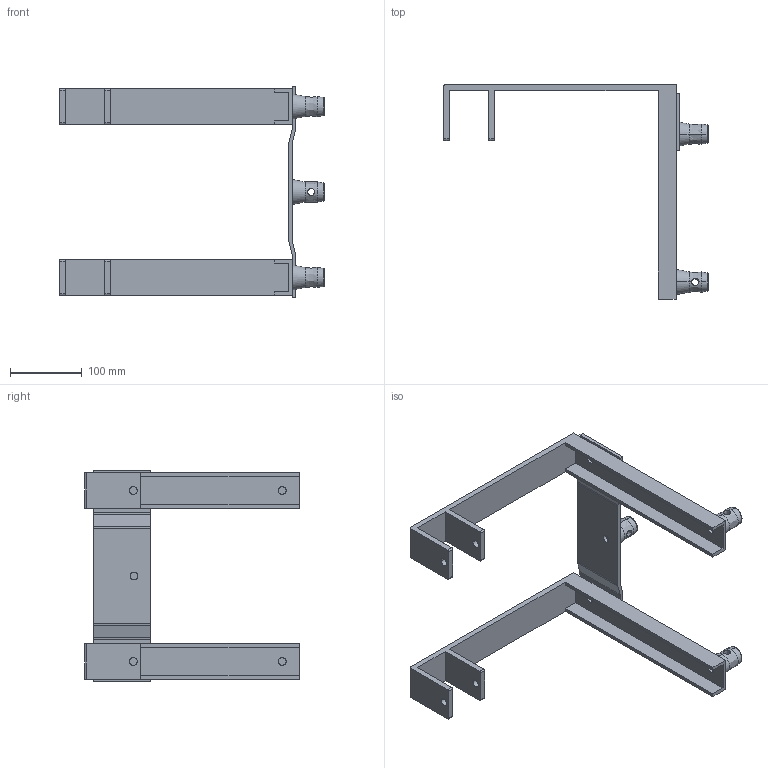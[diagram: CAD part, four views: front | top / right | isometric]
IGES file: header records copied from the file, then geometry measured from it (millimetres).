
Start section: SolidWorks IGES file using analytic representation for surfaces
Global section: file name: K:\BIBLIO\asd_biblio\Accessoires\L290CX\L290CX.IGS; native system: SolidWorks 2009; preprocessor: SolidWorks 2009; author: des3; date: 091023.165111; units: millimetre
Bounding box: 370 x 300 x 295 mm (x, y, z)
Surface area: 269622.6 mm2 (no closed solid volume)
Topology: 0 solids, 0 shells, 132 faces, 2052 edges, 2052 vertices
Faces by surface type: revolution 66, bspline 66
